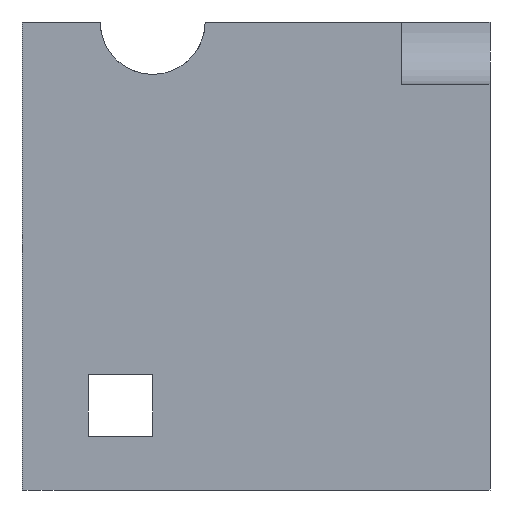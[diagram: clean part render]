
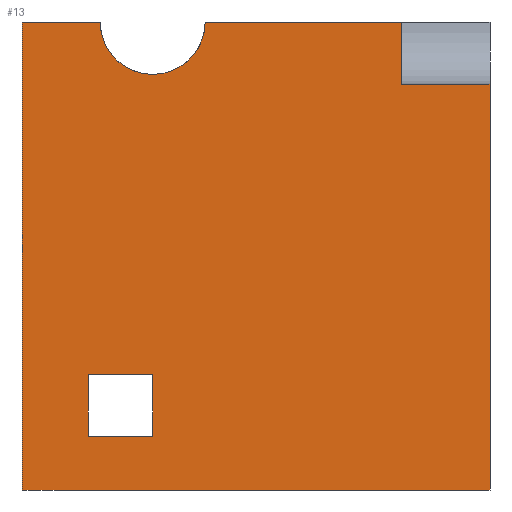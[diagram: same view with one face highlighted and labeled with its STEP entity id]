
A CAD part, front view. The second image highlights one B-rep face of the part: STEP entity #13.
In plain terms, the highlighted planar face has unit normal (0, -1, 0).
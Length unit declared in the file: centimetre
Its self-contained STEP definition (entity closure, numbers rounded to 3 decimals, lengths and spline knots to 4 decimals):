
#7 = CARTESIAN_POINT ( 'NONE',  ( 1000., 0., 1000. ) ) ;
#13 = ADVANCED_FACE ( 'NONE', ( #700, #1212 ), #1363, .F. ) ;
#35 = DIRECTION ( 'NONE',  ( 1., 0., 0. ) ) ;
#54 = VECTOR ( 'NONE', #433, 100. ) ;
#56 = CARTESIAN_POINT ( 'NONE',  ( 810.8609, 0., 1000. ) ) ;
#67 = ORIENTED_EDGE ( 'NONE', *, *, #86, .T. ) ;
#77 = VECTOR ( 'NONE', #881, 100. ) ;
#83 = CARTESIAN_POINT ( 'NONE',  ( 279.8592, 0., 114.877 ) ) ;
#86 = EDGE_CURVE ( 'NONE', #1137, #112, #810, .T. ) ;
#91 = VERTEX_POINT ( 'NONE', #1357 ) ;
#92 = CARTESIAN_POINT ( 'NONE',  ( 0., 0., 1000. ) ) ;
#100 = ORIENTED_EDGE ( 'NONE', *, *, #1209, .T. ) ;
#101 = CARTESIAN_POINT ( 'NONE',  ( 141.2576, 0., 114.877 ) ) ;
#103 = VECTOR ( 'NONE', #35, 100. ) ;
#112 = VERTEX_POINT ( 'NONE', #1228 ) ;
#117 = CARTESIAN_POINT ( 'NONE',  ( 0., 0., 1000. ) ) ;
#159 = DIRECTION ( 'NONE',  ( 0., 1., 0. ) ) ;
#164 = CARTESIAN_POINT ( 'NONE',  ( 141.2576, 0., 246.4859 ) ) ;
#188 = ORIENTED_EDGE ( 'NONE', *, *, #582, .T. ) ;
#238 = VERTEX_POINT ( 'NONE', #1121 ) ;
#275 = VECTOR ( 'NONE', #489, 100. ) ;
#305 = LINE ( 'NONE', #1379, #384 ) ;
#318 = DIRECTION ( 'NONE',  ( -1., 0., 0. ) ) ;
#369 = VERTEX_POINT ( 'NONE', #1112 ) ;
#381 = DIRECTION ( 'NONE',  ( 0., 0., -1. ) ) ;
#384 = VECTOR ( 'NONE', #1102, 100. ) ;
#416 = VECTOR ( 'NONE', #1148, 100. ) ;
#433 = DIRECTION ( 'NONE',  ( 1., 0., 0. ) ) ;
#455 = VERTEX_POINT ( 'NONE', #101 ) ;
#460 = VERTEX_POINT ( 'NONE', #801 ) ;
#473 = EDGE_CURVE ( 'NONE', #1506, #238, #1716, .T. ) ;
#487 = CARTESIAN_POINT ( 'NONE',  ( 279.8592, 0., 246.4859 ) ) ;
#489 = DIRECTION ( 'NONE',  ( 0., 0., 1. ) ) ;
#490 = ORIENTED_EDGE ( 'NONE', *, *, #633, .T. ) ;
#526 = EDGE_CURVE ( 'NONE', #369, #112, #651, .T. ) ;
#548 = CARTESIAN_POINT ( 'NONE',  ( 0., 0., 1000. ) ) ;
#582 = EDGE_CURVE ( 'NONE', #1520, #1710, #1060, .T. ) ;
#609 = CARTESIAN_POINT ( 'NONE',  ( 279.8592, 0., 114.877 ) ) ;
#626 = ORIENTED_EDGE ( 'NONE', *, *, #1485, .F. ) ;
#632 = CARTESIAN_POINT ( 'NONE',  ( 141.2576, 0., 114.877 ) ) ;
#633 = EDGE_CURVE ( 'NONE', #821, #455, #305, .T. ) ;
#651 = LINE ( 'NONE', #7, #1396 ) ;
#655 = CARTESIAN_POINT ( 'NONE',  ( 141.2576, 0., 246.4859 ) ) ;
#659 = CARTESIAN_POINT ( 'NONE',  ( 0., 0., 1000. ) ) ;
#664 = DIRECTION ( 'NONE',  ( 1., 0., 0. ) ) ;
#700 = FACE_BOUND ( 'NONE', #1402, .T. ) ;
#751 = VECTOR ( 'NONE', #664, 100. ) ;
#765 = LINE ( 'NONE', #117, #751 ) ;
#801 = CARTESIAN_POINT ( 'NONE',  ( 810.8609, 0., 866.8428 ) ) ;
#810 = LINE ( 'NONE', #1641, #54 ) ;
#821 = VERTEX_POINT ( 'NONE', #609 ) ;
#828 = EDGE_CURVE ( 'NONE', #1506, #1137, #1022, .T. ) ;
#881 = DIRECTION ( 'NONE',  ( 0., 0., -1. ) ) ;
#891 = EDGE_CURVE ( 'NONE', #1710, #821, #1287, .T. ) ;
#893 = AXIS2_PLACEMENT_3D ( 'NONE', #1115, #1500, #1229 ) ;
#901 = VERTEX_POINT ( 'NONE', #1160 ) ;
#910 = ORIENTED_EDGE ( 'NONE', *, *, #1407, .T. ) ;
#964 = ORIENTED_EDGE ( 'NONE', *, *, #1311, .T. ) ;
#977 = DIRECTION ( 'NONE',  ( 0., 0., 1. ) ) ;
#1002 = LINE ( 'NONE', #1261, #1285 ) ;
#1005 = DIRECTION ( 'NONE',  ( 0., 0., -1. ) ) ;
#1022 = LINE ( 'NONE', #92, #77 ) ;
#1060 = LINE ( 'NONE', #164, #103 ) ;
#1061 = VECTOR ( 'NONE', #1005, 100. ) ;
#1102 = DIRECTION ( 'NONE',  ( -1., 0., 0. ) ) ;
#1112 = CARTESIAN_POINT ( 'NONE',  ( 1000., 0., 866.8428 ) ) ;
#1115 = CARTESIAN_POINT ( 'NONE',  ( 279.2414, 0., 1000. ) ) ;
#1121 = CARTESIAN_POINT ( 'NONE',  ( 167.1938, 0., 1000. ) ) ;
#1137 = VERTEX_POINT ( 'NONE', #1622 ) ;
#1148 = DIRECTION ( 'NONE',  ( 0., 0., -1. ) ) ;
#1160 = CARTESIAN_POINT ( 'NONE',  ( 391.2889, 0., 1000. ) ) ;
#1209 = EDGE_CURVE ( 'NONE', #901, #238, #1318, .T. ) ;
#1212 = FACE_OUTER_BOUND ( 'NONE', #1418, .T. ) ;
#1228 = CARTESIAN_POINT ( 'NONE',  ( 1000., 0., 0. ) ) ;
#1229 = DIRECTION ( 'NONE',  ( 0., 0., 1. ) ) ;
#1239 = ORIENTED_EDGE ( 'NONE', *, *, #828, .T. ) ;
#1261 = CARTESIAN_POINT ( 'NONE',  ( 810.8609, 0., 866.8428 ) ) ;
#1263 = ORIENTED_EDGE ( 'NONE', *, *, #473, .F. ) ;
#1285 = VECTOR ( 'NONE', #318, 100. ) ;
#1287 = LINE ( 'NONE', #83, #1061 ) ;
#1311 = EDGE_CURVE ( 'NONE', #369, #460, #1002, .T. ) ;
#1318 = CIRCLE ( 'NONE', #893, 112.0476 ) ;
#1336 = EDGE_CURVE ( 'NONE', #91, #460, #1424, .T. ) ;
#1357 = CARTESIAN_POINT ( 'NONE',  ( 810.8609, 0., 1000. ) ) ;
#1363 = PLANE ( 'NONE',  #1428 ) ;
#1379 = CARTESIAN_POINT ( 'NONE',  ( 141.2576, 0., 114.877 ) ) ;
#1393 = ORIENTED_EDGE ( 'NONE', *, *, #1336, .F. ) ;
#1396 = VECTOR ( 'NONE', #381, 100. ) ;
#1402 = EDGE_LOOP ( 'NONE', ( #490, #910, #188, #1741 ) ) ;
#1407 = EDGE_CURVE ( 'NONE', #455, #1520, #1735, .T. ) ;
#1418 = EDGE_LOOP ( 'NONE', ( #1492, #964, #1393, #626, #100, #1263, #1239, #67 ) ) ;
#1424 = LINE ( 'NONE', #56, #416 ) ;
#1428 = AXIS2_PLACEMENT_3D ( 'NONE', #548, #159, #977 ) ;
#1483 = DIRECTION ( 'NONE',  ( 1., 0., 0. ) ) ;
#1485 = EDGE_CURVE ( 'NONE', #901, #91, #765, .T. ) ;
#1492 = ORIENTED_EDGE ( 'NONE', *, *, #526, .F. ) ;
#1500 = DIRECTION ( 'NONE',  ( 0., 1., 0. ) ) ;
#1506 = VERTEX_POINT ( 'NONE', #1719 ) ;
#1520 = VERTEX_POINT ( 'NONE', #655 ) ;
#1564 = VECTOR ( 'NONE', #1483, 100. ) ;
#1622 = CARTESIAN_POINT ( 'NONE',  ( 0., 0., 0. ) ) ;
#1641 = CARTESIAN_POINT ( 'NONE',  ( 0., 0., 0. ) ) ;
#1710 = VERTEX_POINT ( 'NONE', #487 ) ;
#1716 = LINE ( 'NONE', #659, #1564 ) ;
#1719 = CARTESIAN_POINT ( 'NONE',  ( 0., 0., 1000. ) ) ;
#1735 = LINE ( 'NONE', #632, #275 ) ;
#1741 = ORIENTED_EDGE ( 'NONE', *, *, #891, .T. ) ;
